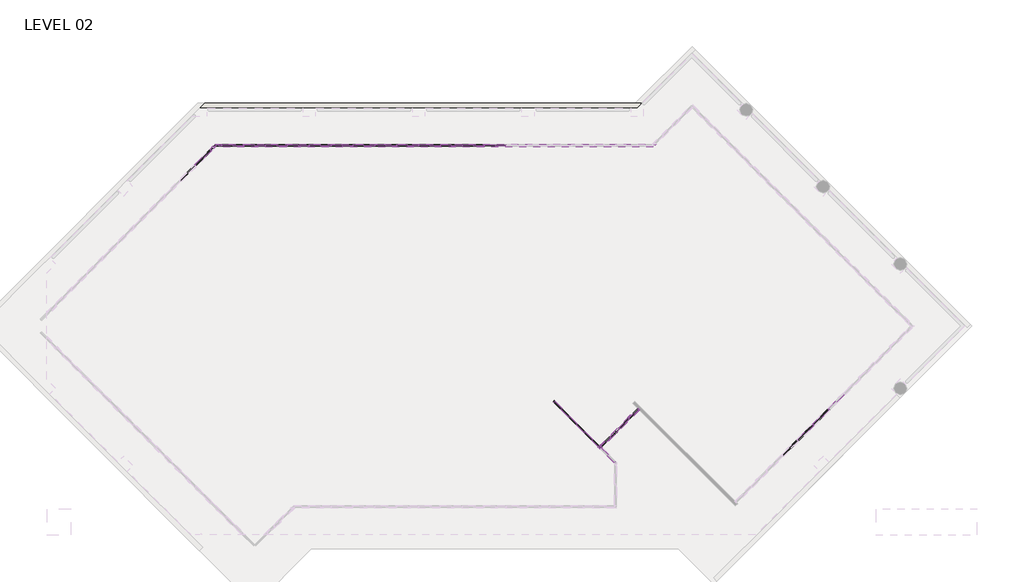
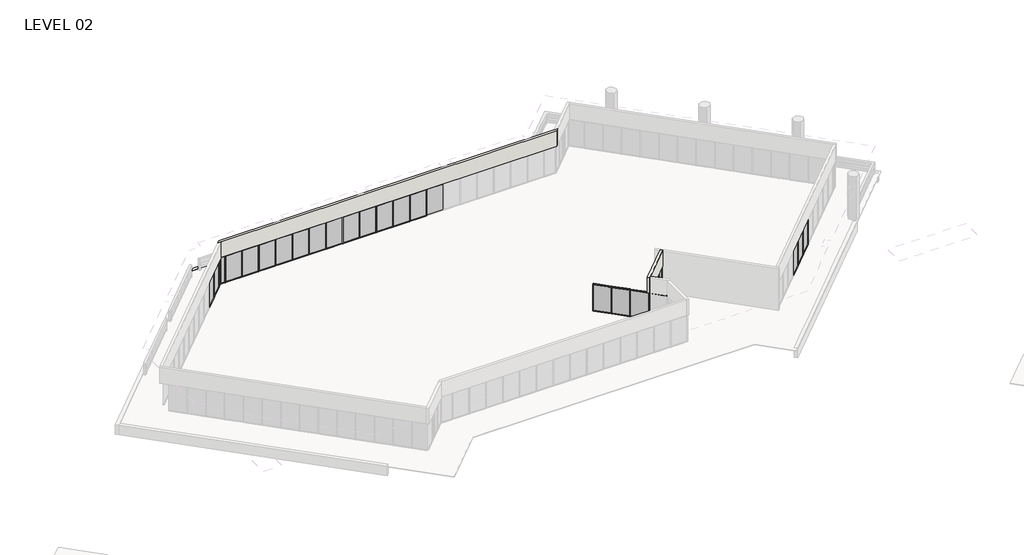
# One storey, part 14 of 19: 81 members, 26 plates, 3 walls, 1 door.
"""IFC4 building model written with IfcOpenShell, lengths in millimetres."""

from ifc_helpers import new_model, si_unit, origin, place, context, project, spatial, faceted_brep, transform, mapped, element, save
from components import curtain_wall_dbl_glass_curtain_wall_dbl_glass_60f99fc0, member_5247f267, member_16770488, member_1d3a199d, member_e44af9ab, member_800970d4, member_cca1f9e6, member_67d17f7f, member_d5560c68, member_35eb671e, member_74c9df78, plate_67294edd, plate_53ca565f, plate_8062c6fe, plate_aaac5d3d, plate_5a14c350, plate_4fb64caf, plate_748a28b9, plate_e3fa2cc7

model = new_model("IFC4")

# Units and contexts
model_context = context("Model", 3, world=origin())
ifc_project = project(units=[si_unit("LENGTHUNIT", "METRE", prefix="MILLI")], contexts=[model_context])

# Site, building, storey
site = spatial("IfcSite", under=ifc_project)
building = spatial("IfcBuilding", under=site)
storey = spatial("IfcBuildingStorey", under=building, Name="LEVEL 02", Elevation=4140.2)

# Door
placement = place(None, origin())
curtain_wall_dbl_glass_curtain_wall_dbl_glass_shape = curtain_wall_dbl_glass_curtain_wall_dbl_glass_60f99fc0(model_context)
element("IfcDoor", 1, ObjectType="Curtain Wall Dbl Glass : Curtain Wall Dbl Glass", at=placement, inside=storey, context=model_context, shape_type="MappedRepresentation", body=[
    mapped(curtain_wall_dbl_glass_curtain_wall_dbl_glass_shape, transform((39694.6589513, 97112.6227253, 4140.2), x_axis=(0.7071067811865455, 0.7071067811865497, 0.0), y_axis=(-0.7071067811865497, 0.7071067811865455, 0.0), z_axis=(0.0, 0.0, 1.0))),
])

# Members
member_shape = member_5247f267(model_context)
element("IfcMember", 2, ObjectType="Rectangular Mullion : 2\" x 4.5\" rectangular", at=placement, inside=storey, context=model_context, shape_type="MappedRepresentation", body=[
    mapped(member_shape, transform((29038.55, 117137.1023049, 4140.2), x_axis=(0.0, 0.0, -1.0), y_axis=(0.0, 1.0, 0.0), z_axis=(1.0, 0.0, 0.0))),
])
element("IfcMember", 3, ObjectType="Rectangular Mullion : 2\" x 4.5\" rectangular", at=placement, inside=storey, context=model_context, shape_type="MappedRepresentation", body=[
    mapped(member_shape, transform((27514.55, 117137.1023049, 4140.2), x_axis=(0.0, 0.0, -1.0), y_axis=(0.0, 1.0, 0.0), z_axis=(1.0, 0.0, 0.0))),
])
element("IfcMember", 4, ObjectType="Rectangular Mullion : 2\" x 4.5\" rectangular", at=placement, inside=storey, context=model_context, shape_type="MappedRepresentation", body=[
    mapped(member_shape, transform((24466.55, 117137.1023049, 4140.2), x_axis=(0.0, 0.0, -1.0), y_axis=(0.0, 1.0, 0.0), z_axis=(1.0, 0.0, 0.0))),
])
element("IfcMember", 5, ObjectType="Rectangular Mullion : 2\" x 4.5\" rectangular", at=placement, inside=storey, context=model_context, shape_type="MappedRepresentation", body=[
    mapped(member_shape, transform((21418.55, 117137.1023049, 4140.2), x_axis=(0.0, 0.0, -1.0), y_axis=(0.0, 1.0, 0.0), z_axis=(1.0, 0.0, 0.0))),
])
element("IfcMember", 6, ObjectType="Rectangular Mullion : 2\" x 4.5\" rectangular", at=placement, inside=storey, context=model_context, shape_type="MappedRepresentation", body=[
    mapped(member_shape, transform((18370.55, 117137.1023049, 4140.2), x_axis=(0.0, 0.0, -1.0), y_axis=(0.0, 1.0, 0.0), z_axis=(1.0, 0.0, 0.0))),
])
element("IfcMember", 7, ObjectType="Rectangular Mullion : 2\" x 4.5\" rectangular", at=placement, inside=storey, context=model_context, shape_type="MappedRepresentation", body=[
    mapped(member_shape, transform((13798.55, 117137.1023049, 4140.2), x_axis=(0.0, 0.0, -1.0), y_axis=(0.0, 1.0, 0.0), z_axis=(1.0, 0.0, 0.0))),
])
element("IfcMember", 8, ObjectType="Rectangular Mullion : 2\" x 4.5\" rectangular", at=placement, inside=storey, context=model_context, shape_type="MappedRepresentation", body=[
    mapped(member_shape, transform((53491.5035079, 97635.3503102, 4140.2), x_axis=(0.0, 0.0, -1.0), y_axis=(-0.7071067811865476, 0.7071067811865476, 0.0), z_axis=(0.7071067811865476, 0.7071067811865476, 0.0))),
])
element("IfcMember", 9, ObjectType="Rectangular Mullion : 2\" x 4.5\" rectangular", at=placement, inside=storey, context=model_context, shape_type="MappedRepresentation", body=[
    mapped(member_shape, transform((52413.887575, 96557.7343774, 4140.2), x_axis=(0.0, 0.0, -1.0), y_axis=(-0.7071067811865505, 0.7071067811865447, 0.0), z_axis=(0.7071067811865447, 0.7071067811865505, 0.0))),
])
element("IfcMember", 10, ObjectType="Rectangular Mullion : 2\" x 4.5\" rectangular", at=placement, inside=storey, context=model_context, shape_type="MappedRepresentation", body=[
    mapped(member_shape, transform((30562.55, 117137.1023049, 4140.2), x_axis=(0.0, 0.0, -1.0), y_axis=(0.0, 1.0, 0.0), z_axis=(1.0, 0.0, 0.0))),
])
element("IfcMember", 11, ObjectType="Rectangular Mullion : 2\" x 4.5\" rectangular", at=placement, inside=storey, context=model_context, shape_type="MappedRepresentation", body=[
    mapped(member_shape, transform((25990.55, 117137.1023049, 4140.2), x_axis=(0.0, 0.0, -1.0), y_axis=(0.0, 1.0, 0.0), z_axis=(1.0, 0.0, 0.0))),
])
element("IfcMember", 12, ObjectType="Rectangular Mullion : 2\" x 4.5\" rectangular", at=placement, inside=storey, context=model_context, shape_type="MappedRepresentation", body=[
    mapped(member_shape, transform((22942.55, 117137.1023049, 4140.2), x_axis=(0.0, 0.0, -1.0), y_axis=(0.0, 1.0, 0.0), z_axis=(1.0, 0.0, 0.0))),
])
element("IfcMember", 13, ObjectType="Rectangular Mullion : 2\" x 4.5\" rectangular", at=placement, inside=storey, context=model_context, shape_type="MappedRepresentation", body=[
    mapped(member_shape, transform((19894.55, 117137.1023049, 4140.2), x_axis=(0.0, 0.0, -1.0), y_axis=(0.0, 1.0, 0.0), z_axis=(1.0, 0.0, 0.0))),
])
element("IfcMember", 14, ObjectType="Rectangular Mullion : 2\" x 4.5\" rectangular", at=placement, inside=storey, context=model_context, shape_type="MappedRepresentation", body=[
    mapped(member_shape, transform((16846.55, 117137.1023049, 4140.2), x_axis=(0.0, 0.0, -1.0), y_axis=(0.0, 1.0, 0.0), z_axis=(1.0, 0.0, 0.0))),
])
element("IfcMember", 15, ObjectType="Rectangular Mullion : 2\" x 4.5\" rectangular", at=placement, inside=storey, context=model_context, shape_type="MappedRepresentation", body=[
    mapped(member_shape, transform((15322.55, 117137.1023049, 4140.2), x_axis=(0.0, 0.0, -1.0), y_axis=(0.0, 1.0, 0.0), z_axis=(1.0, 0.0, 0.0))),
])
element("IfcMember", 16, ObjectType="Rectangular Mullion : 2\" x 4.5\" rectangular", at=placement, inside=storey, context=model_context, shape_type="MappedRepresentation", body=[
    mapped(member_shape, transform((10434.87894, 115722.8867476, 4140.2), x_axis=(0.0, 0.0, -1.0), y_axis=(-0.7071067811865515, 0.7071067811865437, 0.0), z_axis=(0.7071067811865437, 0.7071067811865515, 0.0))),
])
element("IfcMember", 17, ObjectType="Rectangular Mullion : 2\" x 4.5\" rectangular", at=placement, inside=storey, context=model_context, shape_type="MappedRepresentation", body=[
    mapped(member_shape, transform((11512.5096746, 116800.5174821, 4140.2), x_axis=(0.0, 0.0, -1.0), y_axis=(-0.707106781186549, 0.7071067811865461, 0.0), z_axis=(0.7071067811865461, 0.707106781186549, 0.0))),
])
element("IfcMember", 18, ObjectType="Rectangular Mullion : 2\" x 4.5\" rectangular", at=placement, inside=storey, context=model_context, shape_type="MappedRepresentation", body=[
    mapped(member_shape, transform((54569.1194407, 98712.966243, 4140.2), x_axis=(0.0, 0.0, -1.0), y_axis=(-0.7071067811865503, 0.7071067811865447, 0.0), z_axis=(0.7071067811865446, 0.7071067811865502, 0.0))),
])
element("IfcMember", 19, ObjectType="Rectangular Mullion : 2\" x 4.5\" rectangular", at=placement, inside=storey, context=model_context, shape_type="MappedRepresentation", body=[
    mapped(member_shape, transform((38636.3587532, 96090.2435517, 4140.2), x_axis=(0.0, 0.0, -1.0), y_axis=(0.7071067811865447, 0.7071067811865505, 0.0), z_axis=(0.7071067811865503, -0.7071067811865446, 0.0))),
])
element("IfcMember", 20, ObjectType="Rectangular Mullion : 2\" x 4.5\" rectangular", at=placement, inside=storey, context=model_context, shape_type="MappedRepresentation", body=[
    mapped(member_shape, transform((37558.7280187, 97167.8742862, 4140.2), x_axis=(0.0, 0.0, -1.0), y_axis=(0.7071067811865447, 0.7071067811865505, 0.0), z_axis=(0.7071067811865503, -0.7071067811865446, 0.0))),
])
element("IfcMember", 21, ObjectType="Rectangular Mullion : 2\" x 4.5\" rectangular", at=placement, inside=storey, context=model_context, shape_type="MappedRepresentation", body=[
    mapped(member_shape, transform((29089.35, 117137.1023049, 6731.0), x_axis=(0.0, 0.0, 1.0), y_axis=(0.0, 1.0, 0.0), z_axis=(-1.0, 0.0, 0.0))),
])
element("IfcMember", 22, ObjectType="Rectangular Mullion : 2\" x 4.5\" rectangular", at=placement, inside=storey, context=model_context, shape_type="MappedRepresentation", body=[
    mapped(member_shape, transform((27565.35, 117137.1023049, 6731.0), x_axis=(0.0, 0.0, 1.0), y_axis=(0.0, 1.0, 0.0), z_axis=(-1.0, 0.0, 0.0))),
])
element("IfcMember", 23, ObjectType="Rectangular Mullion : 2\" x 4.5\" rectangular", at=placement, inside=storey, context=model_context, shape_type="MappedRepresentation", body=[
    mapped(member_shape, transform((24517.35, 117137.1023049, 6731.0), x_axis=(0.0, 0.0, 1.0), y_axis=(0.0, 1.0, 0.0), z_axis=(-1.0, 0.0, 0.0))),
])
element("IfcMember", 24, ObjectType="Rectangular Mullion : 2\" x 4.5\" rectangular", at=placement, inside=storey, context=model_context, shape_type="MappedRepresentation", body=[
    mapped(member_shape, transform((21469.35, 117137.1023049, 6731.0), x_axis=(0.0, 0.0, 1.0), y_axis=(0.0, 1.0, 0.0), z_axis=(-1.0, 0.0, 0.0))),
])
element("IfcMember", 25, ObjectType="Rectangular Mullion : 2\" x 4.5\" rectangular", at=placement, inside=storey, context=model_context, shape_type="MappedRepresentation", body=[
    mapped(member_shape, transform((18421.35, 117137.1023049, 6731.0), x_axis=(0.0, 0.0, 1.0), y_axis=(0.0, 1.0, 0.0), z_axis=(-1.0, 0.0, 0.0))),
])
element("IfcMember", 26, ObjectType="Rectangular Mullion : 2\" x 4.5\" rectangular", at=placement, inside=storey, context=model_context, shape_type="MappedRepresentation", body=[
    mapped(member_shape, transform((13849.35, 117137.1023049, 6731.0), x_axis=(0.0, 0.0, 1.0), y_axis=(0.0, 1.0, 0.0), z_axis=(-1.0, 0.0, 0.0))),
])
element("IfcMember", 27, ObjectType="Rectangular Mullion : 2\" x 4.5\" rectangular", at=placement, inside=storey, context=model_context, shape_type="MappedRepresentation", body=[
    mapped(member_shape, transform((53527.4245323, 97671.2713347, 6731.0), x_axis=(0.0, 0.0, 1.0), y_axis=(-0.7071067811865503, 0.7071067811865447, 0.0), z_axis=(-0.7071067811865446, -0.7071067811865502, 0.0))),
])
element("IfcMember", 28, ObjectType="Rectangular Mullion : 2\" x 4.5\" rectangular", at=placement, inside=storey, context=model_context, shape_type="MappedRepresentation", body=[
    mapped(member_shape, transform((52449.8085995, 96593.6554019, 6731.0), x_axis=(0.0, 0.0, 1.0), y_axis=(-0.7071067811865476, 0.7071067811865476, 0.0), z_axis=(-0.7071067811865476, -0.7071067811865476, 0.0))),
])
element("IfcMember", 29, ObjectType="Rectangular Mullion : 2\" x 4.5\" rectangular", at=placement, inside=storey, context=model_context, shape_type="MappedRepresentation", body=[
    mapped(member_shape, transform((30613.35, 117137.1023049, 6731.0), x_axis=(0.0, 0.0, 1.0), y_axis=(0.0, 1.0, 0.0), z_axis=(-1.0, 0.0, 0.0))),
])
element("IfcMember", 30, ObjectType="Rectangular Mullion : 2\" x 4.5\" rectangular", at=placement, inside=storey, context=model_context, shape_type="MappedRepresentation", body=[
    mapped(member_shape, transform((26041.35, 117137.1023049, 6731.0), x_axis=(0.0, 0.0, 1.0), y_axis=(0.0, 1.0, 0.0), z_axis=(-1.0, 0.0, 0.0))),
])
element("IfcMember", 31, ObjectType="Rectangular Mullion : 2\" x 4.5\" rectangular", at=placement, inside=storey, context=model_context, shape_type="MappedRepresentation", body=[
    mapped(member_shape, transform((22993.35, 117137.1023049, 6731.0), x_axis=(0.0, 0.0, 1.0), y_axis=(0.0, 1.0, 0.0), z_axis=(-1.0, 0.0, 0.0))),
])
element("IfcMember", 32, ObjectType="Rectangular Mullion : 2\" x 4.5\" rectangular", at=placement, inside=storey, context=model_context, shape_type="MappedRepresentation", body=[
    mapped(member_shape, transform((19945.35, 117137.1023049, 6731.0), x_axis=(0.0, 0.0, 1.0), y_axis=(0.0, 1.0, 0.0), z_axis=(-1.0, 0.0, 0.0))),
])
element("IfcMember", 33, ObjectType="Rectangular Mullion : 2\" x 4.5\" rectangular", at=placement, inside=storey, context=model_context, shape_type="MappedRepresentation", body=[
    mapped(member_shape, transform((16897.35, 117137.1023049, 6731.0), x_axis=(0.0, 0.0, 1.0), y_axis=(0.0, 1.0, 0.0), z_axis=(-1.0, 0.0, 0.0))),
])
element("IfcMember", 34, ObjectType="Rectangular Mullion : 2\" x 4.5\" rectangular", at=placement, inside=storey, context=model_context, shape_type="MappedRepresentation", body=[
    mapped(member_shape, transform((15373.35, 117137.1023049, 6731.0), x_axis=(0.0, 0.0, 1.0), y_axis=(0.0, 1.0, 0.0), z_axis=(-1.0, 0.0, 0.0))),
])
element("IfcMember", 35, ObjectType="Rectangular Mullion : 2\" x 4.5\" rectangular", at=placement, inside=storey, context=model_context, shape_type="MappedRepresentation", body=[
    mapped(member_shape, transform((12325.35, 117137.1023049, 6731.0), x_axis=(0.0, 0.0, 1.0), y_axis=(0.0, 1.0, 0.0), z_axis=(-1.0, 0.0, 0.0))),
])
element("IfcMember", 36, ObjectType="Rectangular Mullion : 2\" x 4.5\" rectangular", at=placement, inside=storey, context=model_context, shape_type="MappedRepresentation", body=[
    mapped(member_shape, transform((10470.7999645, 115758.8077721, 6731.0), x_axis=(0.0, 0.0, 1.0), y_axis=(-0.7071067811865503, 0.7071067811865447, 0.0), z_axis=(-0.7071067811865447, -0.7071067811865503, 0.0))),
])
element("IfcMember", 37, ObjectType="Rectangular Mullion : 2\" x 4.5\" rectangular", at=placement, inside=storey, context=model_context, shape_type="MappedRepresentation", body=[
    mapped(member_shape, transform((54605.0404651, 98748.8872675, 6731.0), x_axis=(0.0, 0.0, 1.0), y_axis=(-0.7071067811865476, 0.7071067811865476, 0.0), z_axis=(-0.7071067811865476, -0.7071067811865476, 0.0))),
])
element("IfcMember", 38, ObjectType="Rectangular Mullion : 2\" x 4.5\" rectangular", at=placement, inside=storey, context=model_context, shape_type="MappedRepresentation", body=[
    mapped(member_shape, transform((36517.0183087, 98209.5839963, 6731.0), x_axis=(0.0, 0.0, 1.0), y_axis=(0.7071067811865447, 0.7071067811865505, 0.0), z_axis=(-0.7071067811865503, 0.7071067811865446, 0.0))),
])
element("IfcMember", 39, ObjectType="Rectangular Mullion : 2\" x 4.5\" rectangular", at=placement, inside=storey, context=model_context, shape_type="MappedRepresentation", body=[
    mapped(member_shape, transform((37594.6490432, 97131.9532617, 6731.0), x_axis=(0.0, 0.0, 1.0), y_axis=(0.7071067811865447, 0.7071067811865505, 0.0), z_axis=(-0.7071067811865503, 0.7071067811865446, 0.0))),
])
member_2_shape = member_16770488(model_context)
element("IfcMember", 40, ObjectType="Rectangular Mullion : 2\" x 4.5\" rectangular", at=placement, inside=storey, context=model_context, shape_type="MappedRepresentation", body=[
    mapped(member_2_shape, transform((11899.8944974, 117137.1023049, 6731.0), x_axis=(0.0, 0.0, 1.0), y_axis=(0.0, 1.0, 0.0), z_axis=(-1.0, 0.0, 0.0))),
])
element("IfcMember", 41, ObjectType="Rectangular Mullion : 2\" x 4.5\" rectangular", at=placement, inside=storey, context=model_context, shape_type="MappedRepresentation", body=[
    mapped(member_2_shape, transform((12274.55, 117137.1023049, 4140.2), x_axis=(0.0, 0.0, -1.0), y_axis=(0.0, 1.0, 0.0), z_axis=(1.0, 0.0, 0.0))),
])
member_3_shape = member_1d3a199d(model_context)
element("IfcMember", 42, ObjectType="Rectangular Mullion : 2\" x 4.5\" rectangular", at=placement, inside=storey, context=model_context, shape_type="MappedRepresentation", body=[
    mapped(member_3_shape, transform((11813.1734729, 117101.1812804, 4140.2), x_axis=(0.0, 0.0, -1.0), y_axis=(-0.7071067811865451, 0.70710678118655, 0.0), z_axis=(0.7071067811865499, 0.707106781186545, 0.0))),
])
element("IfcMember", 43, ObjectType="Rectangular Mullion : 2\" x 4.5\" rectangular", at=placement, inside=storey, context=model_context, shape_type="MappedRepresentation", body=[
    mapped(member_3_shape, transform((11548.4306991, 116836.4385066, 6731.0), x_axis=(0.0, 0.0, 1.0), y_axis=(-0.7071067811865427, 0.7071067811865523, 0.0), z_axis=(-0.7071067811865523, -0.7071067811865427, 0.0))),
])
member_4_shape = member_e44af9ab(model_context)
element("IfcMember", 44, ObjectType="Rectangular Mullion : 2\" x 4.5\" rectangular", at=placement, inside=storey, context=model_context, shape_type="MappedRepresentation", body=[
    mapped(member_4_shape, transform((29063.95, 117137.1023049, 4140.2), x_axis=(-1.0, 0.0, 0.0), y_axis=(0.0, 1.0, 0.0), z_axis=(0.0, 0.0, -1.0))),
])
element("IfcMember", 45, ObjectType="Rectangular Mullion : 2\" x 4.5\" rectangular", at=placement, inside=storey, context=model_context, shape_type="MappedRepresentation", body=[
    mapped(member_4_shape, transform((27539.95, 117137.1023049, 4140.2), x_axis=(-1.0, 0.0, 0.0), y_axis=(0.0, 1.0, 0.0), z_axis=(0.0, 0.0, -1.0))),
])
element("IfcMember", 46, ObjectType="Rectangular Mullion : 2\" x 4.5\" rectangular", at=placement, inside=storey, context=model_context, shape_type="MappedRepresentation", body=[
    mapped(member_4_shape, transform((24491.95, 117137.1023049, 4140.2), x_axis=(-1.0, 0.0, 0.0), y_axis=(0.0, 1.0, 0.0), z_axis=(0.0, 0.0, -1.0))),
])
element("IfcMember", 47, ObjectType="Rectangular Mullion : 2\" x 4.5\" rectangular", at=placement, inside=storey, context=model_context, shape_type="MappedRepresentation", body=[
    mapped(member_4_shape, transform((21443.95, 117137.1023049, 4140.2), x_axis=(-1.0, 0.0, 0.0), y_axis=(0.0, 1.0, 0.0), z_axis=(0.0, 0.0, -1.0))),
])
element("IfcMember", 48, ObjectType="Rectangular Mullion : 2\" x 4.5\" rectangular", at=placement, inside=storey, context=model_context, shape_type="MappedRepresentation", body=[
    mapped(member_4_shape, transform((18395.95, 117137.1023049, 4140.2), x_axis=(-1.0, 0.0, 0.0), y_axis=(0.0, 1.0, 0.0), z_axis=(0.0, 0.0, -1.0))),
])
element("IfcMember", 49, ObjectType="Rectangular Mullion : 2\" x 4.5\" rectangular", at=placement, inside=storey, context=model_context, shape_type="MappedRepresentation", body=[
    mapped(member_4_shape, transform((16871.95, 117137.1023049, 4140.2), x_axis=(-1.0, 0.0, 0.0), y_axis=(0.0, 1.0, 0.0), z_axis=(0.0, 0.0, -1.0))),
])
element("IfcMember", 50, ObjectType="Rectangular Mullion : 2\" x 4.5\" rectangular", at=placement, inside=storey, context=model_context, shape_type="MappedRepresentation", body=[
    mapped(member_4_shape, transform((13823.95, 117137.1023049, 4140.2), x_axis=(-1.0, 0.0, 0.0), y_axis=(0.0, 1.0, 0.0), z_axis=(0.0, 0.0, -1.0))),
])
element("IfcMember", 51, ObjectType="Rectangular Mullion : 2\" x 4.5\" rectangular", at=placement, inside=storey, context=model_context, shape_type="MappedRepresentation", body=[
    mapped(member_4_shape, transform((53509.4640201, 97653.3108224, 4140.2), x_axis=(-0.7071067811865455, -0.7071067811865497, 0.0), y_axis=(-0.7071067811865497, 0.7071067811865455, 0.0), z_axis=(0.0, 0.0, -1.0))),
])
element("IfcMember", 52, ObjectType="Rectangular Mullion : 2\" x 4.5\" rectangular", at=placement, inside=storey, context=model_context, shape_type="MappedRepresentation", body=[
    mapped(member_4_shape, transform((52431.8480873, 96575.6948896, 4140.2), x_axis=(-0.7071067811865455, -0.7071067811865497, 0.0), y_axis=(-0.7071067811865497, 0.7071067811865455, 0.0), z_axis=(0.0, 0.0, -1.0))),
])
element("IfcMember", 53, ObjectType="Rectangular Mullion : 2\" x 4.5\" rectangular", at=placement, inside=storey, context=model_context, shape_type="MappedRepresentation", body=[
    mapped(member_4_shape, transform((30587.95, 117137.1023049, 4140.2), x_axis=(-1.0, 0.0, 0.0), y_axis=(0.0, 1.0, 0.0), z_axis=(0.0, 0.0, -1.0))),
])
element("IfcMember", 54, ObjectType="Rectangular Mullion : 2\" x 4.5\" rectangular", at=placement, inside=storey, context=model_context, shape_type="MappedRepresentation", body=[
    mapped(member_4_shape, transform((26015.95, 117137.1023049, 4140.2), x_axis=(-1.0, 0.0, 0.0), y_axis=(0.0, 1.0, 0.0), z_axis=(0.0, 0.0, -1.0))),
])
element("IfcMember", 55, ObjectType="Rectangular Mullion : 2\" x 4.5\" rectangular", at=placement, inside=storey, context=model_context, shape_type="MappedRepresentation", body=[
    mapped(member_4_shape, transform((22967.95, 117137.1023049, 4140.2), x_axis=(-1.0, 0.0, 0.0), y_axis=(0.0, 1.0, 0.0), z_axis=(0.0, 0.0, -1.0))),
])
element("IfcMember", 56, ObjectType="Rectangular Mullion : 2\" x 4.5\" rectangular", at=placement, inside=storey, context=model_context, shape_type="MappedRepresentation", body=[
    mapped(member_4_shape, transform((19919.95, 117137.1023049, 4140.2), x_axis=(-1.0, 0.0, 0.0), y_axis=(0.0, 1.0, 0.0), z_axis=(0.0, 0.0, -1.0))),
])
element("IfcMember", 57, ObjectType="Rectangular Mullion : 2\" x 4.5\" rectangular", at=placement, inside=storey, context=model_context, shape_type="MappedRepresentation", body=[
    mapped(member_4_shape, transform((15347.95, 117137.1023049, 4140.2), x_axis=(-1.0, 0.0, 0.0), y_axis=(0.0, 1.0, 0.0), z_axis=(0.0, 0.0, -1.0))),
])
element("IfcMember", 58, ObjectType="Rectangular Mullion : 2\" x 4.5\" rectangular", at=placement, inside=storey, context=model_context, shape_type="MappedRepresentation", body=[
    mapped(member_4_shape, transform((12299.95, 117137.1023049, 4140.2), x_axis=(-1.0, 0.0, 0.0), y_axis=(0.0, 1.0, 0.0), z_axis=(0.0, 0.0, -1.0))),
])
element("IfcMember", 59, ObjectType="Rectangular Mullion : 2\" x 4.5\" rectangular", at=placement, inside=storey, context=model_context, shape_type="MappedRepresentation", body=[
    mapped(member_4_shape, transform((10452.8394523, 115740.8472598, 4140.2), x_axis=(-0.7071067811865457, -0.7071067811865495, 0.0), y_axis=(-0.7071067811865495, 0.7071067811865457, 0.0), z_axis=(0.0, 0.0, -1.0))),
])
element("IfcMember", 60, ObjectType="Rectangular Mullion : 2\" x 4.5\" rectangular", at=placement, inside=storey, context=model_context, shape_type="MappedRepresentation", body=[
    mapped(member_4_shape, transform((11530.4701868, 116818.4779943, 4140.2), x_axis=(-0.7071067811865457, -0.7071067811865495, 0.0), y_axis=(-0.7071067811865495, 0.7071067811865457, 0.0), z_axis=(0.0, 0.0, -1.0))),
])
element("IfcMember", 61, ObjectType="Rectangular Mullion : 2\" x 4.5\" rectangular", at=placement, inside=storey, context=model_context, shape_type="MappedRepresentation", body=[
    mapped(member_4_shape, transform((54587.0799529, 98730.9267552, 4140.2), x_axis=(-0.7071067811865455, -0.7071067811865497, 0.0), y_axis=(-0.7071067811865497, 0.7071067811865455, 0.0), z_axis=(0.0, 0.0, -1.0))),
])
element("IfcMember", 62, ObjectType="Rectangular Mullion : 2\" x 4.5\" rectangular", at=placement, inside=storey, context=model_context, shape_type="MappedRepresentation", body=[
    mapped(member_4_shape, transform((38654.3192655, 96072.2830395, 4140.2), x_axis=(-0.7071067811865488, 0.7071067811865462, 0.0), y_axis=(0.7071067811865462, 0.7071067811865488, 0.0), z_axis=(0.0, 0.0, -1.0))),
])
element("IfcMember", 63, ObjectType="Rectangular Mullion : 2\" x 4.5\" rectangular", at=placement, inside=storey, context=model_context, shape_type="MappedRepresentation", body=[
    mapped(member_4_shape, transform((36499.0577964, 98227.5445085, 4140.2), x_axis=(-0.7071067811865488, 0.7071067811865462, 0.0), y_axis=(0.7071067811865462, 0.7071067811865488, 0.0), z_axis=(0.0, 0.0, -1.0))),
])
element("IfcMember", 64, ObjectType="Rectangular Mullion : 2\" x 4.5\" rectangular", at=placement, inside=storey, context=model_context, shape_type="MappedRepresentation", body=[
    mapped(member_4_shape, transform((37576.6885309, 97149.913774, 4140.2), x_axis=(-0.7071067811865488, 0.7071067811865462, 0.0), y_axis=(0.7071067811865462, 0.7071067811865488, 0.0), z_axis=(0.0, 0.0, -1.0))),
])
element("IfcMember", 65, ObjectType="Rectangular Mullion : 2\" x 4.5\" rectangular", at=placement, inside=storey, context=model_context, shape_type="MappedRepresentation", body=[
    mapped(member_4_shape, transform((39371.6614109, 96789.6251848, 4140.2), x_axis=(0.7071067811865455, 0.7071067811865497, 0.0), y_axis=(0.7071067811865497, -0.7071067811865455, 0.0), z_axis=(0.0, 0.0, -1.0))),
])
element("IfcMember", 66, ObjectType="Rectangular Mullion : 2\" x 4.5\" rectangular", at=placement, inside=storey, context=model_context, shape_type="MappedRepresentation", body=[
    mapped(member_4_shape, transform((40664.8182923, 98082.7820663, 4140.2), x_axis=(0.7071067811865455, 0.7071067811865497, 0.0), y_axis=(0.7071067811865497, -0.7071067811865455, 0.0), z_axis=(0.0, 0.0, -1.0))),
])
member_5_shape = member_800970d4(model_context)
element("IfcMember", 67, ObjectType="Rectangular Mullion : 2\" x 4.5\" rectangular", at=placement, inside=storey, context=model_context, shape_type="MappedRepresentation", body=[
    mapped(member_5_shape, transform((11849.0944974, 117137.1023049, 4140.2), x_axis=(-1.0, 0.0, 0.0), y_axis=(0.0, 1.0, 0.0), z_axis=(0.0, 0.0, -1.0))),
])
element("IfcMember", 68, ObjectType="Rectangular Mullion : 2\" x 4.5\" rectangular", at=placement, inside=storey, context=model_context, shape_type="MappedRepresentation", body=[
    mapped(member_5_shape, transform((35421.4270619, 99305.175243, 4140.2), x_axis=(-0.7071067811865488, 0.7071067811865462, 0.0), y_axis=(0.7071067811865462, 0.7071067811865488, 0.0), z_axis=(0.0, 0.0, -1.0))),
])
element("IfcMember", 69, ObjectType="Rectangular Mullion : 2\" x 4.5\" rectangular", at=placement, inside=storey, context=model_context, shape_type="MappedRepresentation", body=[
    mapped(member_5_shape, transform((41340.5825654, 98758.5463394, 4140.2), x_axis=(0.7071067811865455, 0.7071067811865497, 0.0), y_axis=(0.7071067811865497, -0.7071067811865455, 0.0), z_axis=(0.0, 0.0, -1.0))),
])
element("IfcMember", 70, ObjectType="Rectangular Mullion : 2\" x 4.5\" rectangular", at=placement, inside=storey, context=model_context, shape_type="MappedRepresentation", body=[
    mapped(member_5_shape, transform((11849.0944974, 117137.1023049, 6731.0), x_axis=(0.7071067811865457, 0.7071067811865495, 0.0), y_axis=(-0.7071067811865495, 0.7071067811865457, 0.0), z_axis=(0.0, 0.0, 1.0))),
])
element("IfcMember", 71, ObjectType="Rectangular Mullion : 2\" x 4.5\" rectangular", at=placement, inside=storey, context=model_context, shape_type="MappedRepresentation", body=[
    mapped(member_5_shape, transform((38694.730418, 96112.694192, 6731.0), x_axis=(-0.7071067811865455, -0.7071067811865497, 0.0), y_axis=(0.7071067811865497, -0.7071067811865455, 0.0), z_axis=(0.0, 0.0, 1.0))),
])
member_6_shape = member_cca1f9e6(model_context)
element("IfcMember", 72, ObjectType="Rectangular Mullion : 2\" x 4.5\" rectangular", at=placement, inside=storey, context=model_context, shape_type="MappedRepresentation", body=[
    mapped(member_6_shape, transform((35457.3480864, 99269.2542186, 6731.0), x_axis=(0.0, 0.0, 1.0), y_axis=(0.7071067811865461, 0.7071067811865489, 0.0), z_axis=(-0.7071067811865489, 0.7071067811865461, 0.0))),
])
element("IfcMember", 73, ObjectType="Rectangular Mullion : 2\" x 4.5\" rectangular", at=placement, inside=storey, context=model_context, shape_type="MappedRepresentation", body=[
    mapped(member_6_shape, transform((38672.2797777, 96054.3225272, 6731.0), x_axis=(0.0, 0.0, 1.0), y_axis=(0.7071067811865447, 0.7071067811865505, 0.0), z_axis=(-0.7071067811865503, 0.7071067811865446, 0.0))),
])
element("IfcMember", 74, ObjectType="Rectangular Mullion : 2\" x 4.5\" rectangular", at=placement, inside=storey, context=model_context, shape_type="MappedRepresentation", body=[
    mapped(member_6_shape, transform((36481.0972842, 98245.5050208, 4140.2), x_axis=(0.0, 0.0, -1.0), y_axis=(0.7071067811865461, 0.7071067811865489, 0.0), z_axis=(0.7071067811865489, -0.7071067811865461, 0.0))),
])
member_7_shape = member_67d17f7f(model_context)
element("IfcMember", 75, ObjectType="Rectangular Mullion : 2\" x 4.5\" rectangular", at=placement, inside=storey, context=model_context, shape_type="MappedRepresentation", body=[
    mapped(member_7_shape, transform((41304.6615409, 98722.6253149, 6731.0), x_axis=(0.0, 0.0, 1.0), y_axis=(0.7071067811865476, -0.7071067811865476, 0.0), z_axis=(0.7071067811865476, 0.7071067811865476, 0.0))),
])
element("IfcMember", 76, ObjectType="Rectangular Mullion : 2\" x 4.5\" rectangular", at=placement, inside=storey, context=model_context, shape_type="MappedRepresentation", body=[
    mapped(member_7_shape, transform((40682.7788045, 98100.7425785, 4140.2), x_axis=(0.0, 0.0, -1.0), y_axis=(0.7071067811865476, -0.7071067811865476, 0.0), z_axis=(-0.7071067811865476, -0.7071067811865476, 0.0))),
])
member_8_shape = member_d5560c68(model_context)
element("IfcMember", 77, ObjectType="Rectangular Mullion : 2\" x 4.5\" rectangular", at=placement, inside=storey, context=model_context, shape_type="MappedRepresentation", body=[
    mapped(member_8_shape, transform((38730.6514425, 96148.6152165, 4140.2), x_axis=(0.0, 0.0, -1.0), y_axis=(0.7071067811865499, -0.7071067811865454, 0.0), z_axis=(-0.7071067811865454, -0.7071067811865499, 0.0))),
])
element("IfcMember", 78, ObjectType="Rectangular Mullion : 2\" x 4.5\" rectangular", at=placement, inside=storey, context=model_context, shape_type="MappedRepresentation", body=[
    mapped(member_8_shape, transform((39353.7008986, 96771.6646726, 6731.0), x_axis=(0.0, 0.0, 1.0), y_axis=(0.7071067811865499, -0.7071067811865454, 0.0), z_axis=(0.7071067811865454, 0.7071067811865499, 0.0))),
])
element("IfcMember", 79, ObjectType="Rectangular Mullion : 2\" x 4.5\" rectangular", at=placement, inside=storey, context=model_context, shape_type="MappedRepresentation", body=[
    mapped(member_4_shape, transform((40017.6564917, 97435.6202657, 4140.2), x_axis=(0.7071067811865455, 0.7071067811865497, 0.0), y_axis=(0.7071067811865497, -0.7071067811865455, 0.0), z_axis=(0.0, 0.0, -1.0))),
])
member_9_shape = member_35eb671e(model_context)
element("IfcMember", 80, ObjectType="Rectangular Mullion : 2\" x 4.5\" rectangular", at=placement, inside=storey, context=model_context, shape_type="MappedRepresentation", body=[
    mapped(member_9_shape, transform((40646.8577801, 98064.821554, 6731.0), x_axis=(0.0, 0.0, 1.0), y_axis=(0.7071067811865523, -0.7071067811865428, 0.0), z_axis=(0.7071067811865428, 0.7071067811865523, 0.0))),
])
member_10_shape = member_74c9df78(model_context)
element("IfcMember", 81, ObjectType="Rectangular Mullion : 2\" x 4.5\" rectangular", at=placement, inside=storey, context=model_context, shape_type="MappedRepresentation", body=[
    mapped(member_10_shape, transform((39999.6959795, 97417.6597535, 6731.0), x_axis=(0.0, 0.0, 1.0), y_axis=(0.7071067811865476, -0.7071067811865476, 0.0), z_axis=(0.7071067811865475, 0.7071067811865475, 0.0))),
])
element("IfcMember", 82, ObjectType="Rectangular Mullion : 2\" x 4.5\" rectangular", at=placement, inside=storey, context=model_context, shape_type="MappedRepresentation", body=[
    mapped(member_9_shape, transform((40035.617004, 97453.5807779, 4140.2), x_axis=(0.0, 0.0, -1.0), y_axis=(0.7071067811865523, -0.7071067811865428, 0.0), z_axis=(-0.7071067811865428, -0.7071067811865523, 0.0))),
])

# Plates
plate_shape = plate_67294edd(model_context)
element("IfcPlate", 83, ObjectType="System Panel : 1/4\" Glass", at=placement, inside=storey, context=model_context, shape_type="MappedRepresentation", body=[
    mapped(plate_shape, transform((28301.95, 117137.1023049, 4191.0), x_axis=(-1.0, 0.0, 0.0), y_axis=(0.0, -1.0, 0.0), z_axis=(0.0, 0.0, 1.0))),
])
element("IfcPlate", 84, ObjectType="System Panel : 1/4\" Glass", at=placement, inside=storey, context=model_context, shape_type="MappedRepresentation", body=[
    mapped(plate_shape, transform((26777.95, 117137.1023049, 4191.0), x_axis=(-1.0, 0.0, 0.0), y_axis=(0.0, -1.0, 0.0), z_axis=(0.0, 0.0, 1.0))),
])
element("IfcPlate", 85, ObjectType="System Panel : 1/4\" Glass", at=placement, inside=storey, context=model_context, shape_type="MappedRepresentation", body=[
    mapped(plate_shape, transform((23729.95, 117137.1023049, 4191.0), x_axis=(-1.0, 0.0, 0.0), y_axis=(0.0, -1.0, 0.0), z_axis=(0.0, 0.0, 1.0))),
])
element("IfcPlate", 86, ObjectType="System Panel : 1/4\" Glass", at=placement, inside=storey, context=model_context, shape_type="MappedRepresentation", body=[
    mapped(plate_shape, transform((20681.95, 117137.1023049, 4191.0), x_axis=(-1.0, 0.0, 0.0), y_axis=(0.0, -1.0, 0.0), z_axis=(0.0, 0.0, 1.0))),
])
element("IfcPlate", 87, ObjectType="System Panel : 1/4\" Glass", at=placement, inside=storey, context=model_context, shape_type="MappedRepresentation", body=[
    mapped(plate_shape, transform((17633.95, 117137.1023049, 4191.0), x_axis=(-1.0, 0.0, 0.0), y_axis=(0.0, -1.0, 0.0), z_axis=(0.0, 0.0, 1.0))),
])
element("IfcPlate", 88, ObjectType="System Panel : 1/4\" Glass", at=placement, inside=storey, context=model_context, shape_type="MappedRepresentation", body=[
    mapped(plate_shape, transform((16109.95, 117137.1023049, 4191.0), x_axis=(-1.0, 0.0, 0.0), y_axis=(0.0, -1.0, 0.0), z_axis=(0.0, 0.0, 1.0))),
])
element("IfcPlate", 89, ObjectType="System Panel : 1/4\" Glass", at=placement, inside=storey, context=model_context, shape_type="MappedRepresentation", body=[
    mapped(plate_shape, transform((13061.95, 117137.1023049, 4191.0), x_axis=(-1.0, 0.0, 0.0), y_axis=(0.0, -1.0, 0.0), z_axis=(0.0, 0.0, 1.0))),
])
element("IfcPlate", 90, ObjectType="System Panel : 1/4\" Glass", at=placement, inside=storey, context=model_context, shape_type="MappedRepresentation", body=[
    mapped(plate_shape, transform((51893.03272, 96036.8795223, 4191.0), x_axis=(-0.7071067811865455, -0.7071067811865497, 0.0), y_axis=(0.7071067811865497, -0.7071067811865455, 0.0), z_axis=(0.0, 0.0, 1.0))),
])
element("IfcPlate", 91, ObjectType="System Panel : 1/4\" Glass", at=placement, inside=storey, context=model_context, shape_type="MappedRepresentation", body=[
    mapped(plate_shape, transform((31349.95, 117137.1023049, 4191.0), x_axis=(-1.0, 0.0, 0.0), y_axis=(0.0, -1.0, 0.0), z_axis=(0.0, 0.0, 1.0))),
])
element("IfcPlate", 92, ObjectType="System Panel : 1/4\" Glass", at=placement, inside=storey, context=model_context, shape_type="MappedRepresentation", body=[
    mapped(plate_shape, transform((29825.95, 117137.1023049, 4191.0), x_axis=(-1.0, 0.0, 0.0), y_axis=(0.0, -1.0, 0.0), z_axis=(0.0, 0.0, 1.0))),
])
element("IfcPlate", 93, ObjectType="System Panel : 1/4\" Glass", at=placement, inside=storey, context=model_context, shape_type="MappedRepresentation", body=[
    mapped(plate_shape, transform((25253.95, 117137.1023049, 4191.0), x_axis=(-1.0, 0.0, 0.0), y_axis=(0.0, -1.0, 0.0), z_axis=(0.0, 0.0, 1.0))),
])
element("IfcPlate", 94, ObjectType="System Panel : 1/4\" Glass", at=placement, inside=storey, context=model_context, shape_type="MappedRepresentation", body=[
    mapped(plate_shape, transform((22205.95, 117137.1023049, 4191.0), x_axis=(-1.0, 0.0, 0.0), y_axis=(0.0, -1.0, 0.0), z_axis=(0.0, 0.0, 1.0))),
])
element("IfcPlate", 95, ObjectType="System Panel : 1/4\" Glass", at=placement, inside=storey, context=model_context, shape_type="MappedRepresentation", body=[
    mapped(plate_shape, transform((19157.95, 117137.1023049, 4191.0), x_axis=(-1.0, 0.0, 0.0), y_axis=(0.0, -1.0, 0.0), z_axis=(0.0, 0.0, 1.0))),
])
element("IfcPlate", 96, ObjectType="System Panel : 1/4\" Glass", at=placement, inside=storey, context=model_context, shape_type="MappedRepresentation", body=[
    mapped(plate_shape, transform((14585.95, 117137.1023049, 4191.0), x_axis=(-1.0, 0.0, 0.0), y_axis=(0.0, -1.0, 0.0), z_axis=(0.0, 0.0, 1.0))),
])
element("IfcPlate", 97, ObjectType="System Panel : 1/4\" Glass", at=placement, inside=storey, context=model_context, shape_type="MappedRepresentation", body=[
    mapped(plate_shape, transform((9914.024085, 115202.0318925, 4191.0), x_axis=(-0.7071067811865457, -0.7071067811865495, 0.0), y_axis=(0.7071067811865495, -0.7071067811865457, 0.0), z_axis=(0.0, 0.0, 1.0))),
])
element("IfcPlate", 98, ObjectType="System Panel : 1/4\" Glass", at=placement, inside=storey, context=model_context, shape_type="MappedRepresentation", body=[
    mapped(plate_shape, transform((10991.6548195, 116279.6626271, 4191.0), x_axis=(-0.7071067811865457, -0.7071067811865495, 0.0), y_axis=(0.7071067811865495, -0.7071067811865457, 0.0), z_axis=(0.0, 0.0, 1.0))),
])
element("IfcPlate", 99, ObjectType="System Panel : 1/4\" Glass", at=placement, inside=storey, context=model_context, shape_type="MappedRepresentation", body=[
    mapped(plate_shape, transform((38115.5038982, 96611.0984067, 4191.0), x_axis=(-0.7071067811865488, 0.7071067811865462, 0.0), y_axis=(-0.7071067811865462, -0.7071067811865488, 0.0), z_axis=(0.0, 0.0, 1.0))),
])
element("IfcPlate", 100, ObjectType="System Panel : 1/4\" Glass", at=placement, inside=storey, context=model_context, shape_type="MappedRepresentation", body=[
    mapped(plate_shape, transform((37037.8731637, 97688.7291412, 4191.0), x_axis=(-0.7071067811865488, 0.7071067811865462, 0.0), y_axis=(-0.7071067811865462, -0.7071067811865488, 0.0), z_axis=(0.0, 0.0, 1.0))),
])
plate_2_shape = plate_53ca565f(model_context)
element("IfcPlate", 101, ObjectType="System Panel : 1/4\" Glass", at=placement, inside=storey, context=model_context, shape_type="MappedRepresentation", body=[
    mapped(plate_2_shape, transform((12087.2222487, 117137.1023049, 4191.0), x_axis=(-1.0, 0.0, 0.0), y_axis=(0.0, -1.0, 0.0), z_axis=(0.0, 0.0, 1.0))),
])
plate_3_shape = plate_8062c6fe(model_context)
element("IfcPlate", 102, ObjectType="System Panel : 1/4\" Glass", at=placement, inside=storey, context=model_context, shape_type="MappedRepresentation", body=[
    mapped(plate_3_shape, transform((11680.802086, 116968.8098935, 4191.0), x_axis=(-0.7071067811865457, -0.7071067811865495, 0.0), y_axis=(0.7071067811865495, -0.7071067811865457, 0.0), z_axis=(0.0, 0.0, 1.0))),
])
plate_4_shape = plate_aaac5d3d(model_context)
element("IfcPlate", 103, ObjectType="System Panel : 1/4\" Glass", at=placement, inside=storey, context=model_context, shape_type="MappedRepresentation", body=[
    mapped(plate_4_shape, transform((52970.6560537, 97114.502856, 4191.0), x_axis=(-0.7071067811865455, -0.7071067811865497, 0.0), y_axis=(0.7071067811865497, -0.7071067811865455, 0.0), z_axis=(0.0, 0.0, 1.0))),
])
element("IfcPlate", 104, ObjectType="System Panel : 1/4\" Glass", at=placement, inside=storey, context=model_context, shape_type="MappedRepresentation", body=[
    mapped(plate_4_shape, transform((54048.2719865, 98192.1187888, 4191.0), x_axis=(-0.7071067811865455, -0.7071067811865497, 0.0), y_axis=(0.7071067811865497, -0.7071067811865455, 0.0), z_axis=(0.0, 0.0, 1.0))),
])
plate_5_shape = plate_5a14c350(model_context)
element("IfcPlate", 105, ObjectType="System Panel : 1/4\" Glass", at=placement, inside=storey, context=model_context, shape_type="MappedRepresentation", body=[
    mapped(plate_5_shape, transform((35969.2226853, 98757.3796197, 4191.0), x_axis=(-0.7071067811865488, 0.7071067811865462, 0.0), y_axis=(-0.7071067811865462, -0.7071067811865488, 0.0), z_axis=(0.0, 0.0, 1.0))),
])
plate_6_shape = plate_4fb64caf(model_context)
element("IfcPlate", 106, ObjectType="System Panel : 1/4\" Glass", at=placement, inside=storey, context=model_context, shape_type="MappedRepresentation", body=[
    mapped(plate_6_shape, transform((39042.1761706, 96460.1399445, 4191.0), x_axis=(0.7071067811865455, 0.7071067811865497, 0.0), y_axis=(-0.7071067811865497, 0.7071067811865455, 0.0), z_axis=(0.0, 0.0, 1.0))),
])
plate_7_shape = plate_748a28b9(model_context)
element("IfcPlate", 107, ObjectType="System Panel : 1/4\" Glass", at=placement, inside=storey, context=model_context, shape_type="MappedRepresentation", body=[
    mapped(plate_7_shape, transform((40993.7201727, 98411.6839467, 4191.0), x_axis=(0.7071067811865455, 0.7071067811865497, 0.0), y_axis=(-0.7071067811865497, 0.7071067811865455, 0.0), z_axis=(0.0, 0.0, 1.0))),
])
plate_8_shape = plate_e3fa2cc7(model_context)
element("IfcPlate", 108, ObjectType="System Panel : 1/4\" Glass", at=placement, inside=storey, context=model_context, shape_type="MappedRepresentation", body=[
    mapped(plate_8_shape, transform((40341.237392, 97759.201166, 4191.0), x_axis=(0.7071067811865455, 0.7071067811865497, 0.0), y_axis=(-0.7071067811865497, 0.7071067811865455, 0.0), z_axis=(0.0, 0.0, 1.0))),
])

# Walls
element("IfcWall", 109, ObjectType="01-CONCRETE-12", at=placement, inside=storey, context=model_context, shape_type="Brep", body=[
    faceted_brep([(10754.907951, 119778.7023049, 3225.8), (11249.0863917, 119778.7023049, 3225.8), (17964.8977062, 119778.7023049, 3225.8), (18827.0022938, 119778.7023049, 3225.8), (25584.8977062, 119778.7023049, 3225.8), (26447.0022938, 119778.7023049, 3225.8), (33204.8977062, 119778.7023049, 3225.8), (34067.0022938, 119778.7023049, 3225.8), (40824.8977062, 119778.7023049, 3225.8), (41234.907951, 119778.7023049, 3225.8), (41234.907951, 119778.7023049, 4140.2), (40824.8977062, 119778.7023049, 4140.2), (34067.0022938, 119778.7023049, 4140.2), (33204.8977062, 119778.7023049, 4140.2), (26447.0022938, 119778.7023049, 4140.2), (25584.8977062, 119778.7023049, 4140.2), (18827.0022938, 119778.7023049, 4140.2), (17964.8977062, 119778.7023049, 4140.2), (11249.0863917, 119778.7023049, 4140.2), (10754.907951, 119778.7023049, 4140.2), (11059.707951, 120083.5023049, 3225.8), (11059.707951, 120083.5023049, 4140.2), (41108.6556572, 120083.5023049, 4140.2), (41539.707951, 120083.5023049, 4140.2), (41539.707951, 120083.5023049, 3225.8), (41108.6556572, 120083.5023049, 3225.8), (41480.6697948, 120024.4641487, 3225.8), (41480.6697948, 120024.4641487, 4140.2)], [[[0, 1, 2, 3, 4, 5, 6, 7, 8, 9, 10, 11, 12, 13, 14, 15, 16, 17, 18, 19]], [[20, 21, 22, 23, 24, 25]], [[9, 8, 7, 6, 5, 4, 3, 2, 1, 0, 20, 25, 24, 26]], [[19, 18, 17, 16, 15, 14, 13, 12, 11, 10, 27, 23, 22, 21]], [[0, 19, 21, 20]], [[10, 9, 26, 24, 23, 27]]]),
])
element("IfcWall", 110, ObjectType="8\" Existing Wall", at=placement, inside=storey, context=model_context, shape_type="Brep", body=[
    faceted_brep([(42574.3785953, 117238.7023049, 6731.0), (42287.0103995, 117238.7023049, 6731.0), (11807.0103995, 117238.7023049, 6731.0), (11807.0103995, 117238.7023049, 8229.6), (42287.0103995, 117238.7023049, 8229.6), (42574.3785953, 117238.7023049, 8229.6), (42371.1785953, 117035.5023049, 6731.0), (42371.1785953, 117035.5023049, 8229.6), (11891.1785953, 117035.5023049, 8229.6), (11603.8103995, 117035.5023049, 8229.6), (11603.8103995, 117035.5023049, 6731.0), (11891.1785953, 117035.5023049, 6731.0)], [[[0, 1, 2, 3, 4, 5]], [[6, 7, 8, 9, 10, 11]], [[2, 1, 0, 6, 11, 10]], [[5, 4, 3, 9, 8, 7]], [[0, 5, 7, 6]], [[3, 2, 10, 9]]]),
])
element("IfcWall", 111, ObjectType="8\" Existing Wall", at=placement, inside=storey, context=model_context, shape_type="Brep", body=[
    faceted_brep([(41268.7405164, 98830.3883884, 6731.0), (38510.6351675, 96072.2830395, 6731.0), (38510.6351675, 96072.2830395, 8229.6), (41268.7405164, 98830.3883884, 8229.6), (41412.4246144, 98686.7042904, 6731.0), (41412.4246144, 98686.7042904, 8229.6), (38798.0033634, 96072.2830395, 8229.6), (38654.3192655, 95928.5989415, 8229.6), (38654.3192655, 95928.5989415, 6731.0), (38798.0033634, 96072.2830395, 6731.0)], [[[0, 1, 2, 3]], [[4, 5, 6, 7, 8, 9]], [[1, 0, 4, 9, 8]], [[3, 2, 7, 6, 5]], [[0, 3, 5, 4]], [[2, 1, 8, 7]]]),
])

save(model, "model.ifc")
